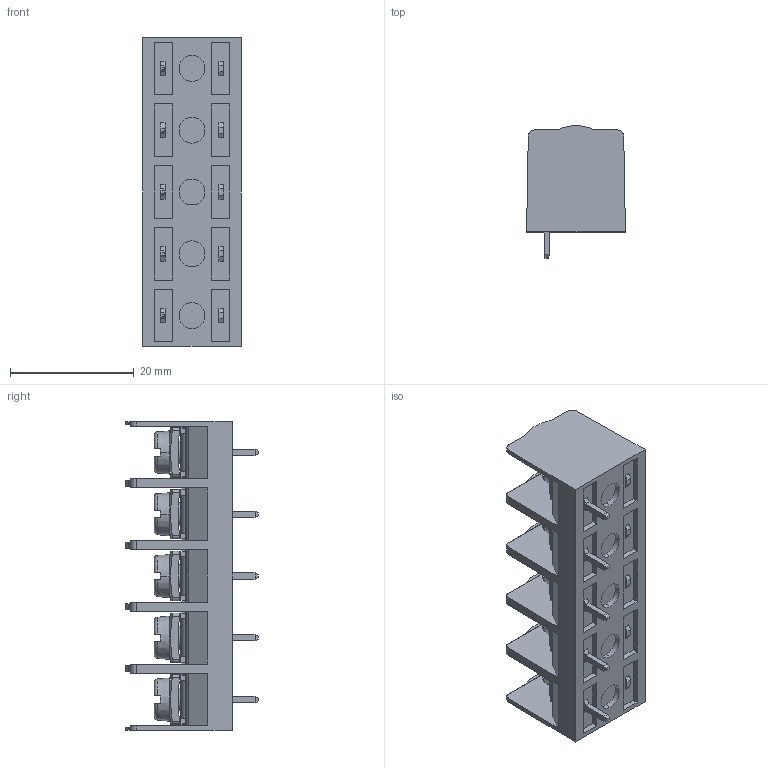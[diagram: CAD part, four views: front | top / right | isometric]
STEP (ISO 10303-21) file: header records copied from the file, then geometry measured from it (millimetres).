
FILE_DESCRIPTION (( 'STEP AP203' ), '1' );
FILE_NAME ('983-S-05.STEP', '2019-01-18T00:50:51', ( '' ), ( '' ), 'SwSTEP 2.0', 'SolidWorks 2016', '' );
FILE_SCHEMA (( 'CONFIG_CONTROL_DESIGN' ));
Length unit declared in the file: millimetre
Products named in the file (1): 983-S-05
Bounding box: 16 x 21.4 x 50 mm (x, y, z)
Volume: 7552 mm3; surface area: 6203.2 mm2
Topology: 1 solids, 1 shells, 569 faces, 1517 edges, 1004 vertices
Faces by surface type: plane 396, cylinder 103, bspline 55, cone 15
Entity records: 19799 total; most frequent: CARTESIAN_POINT 6067, ORIENTED_EDGE 3034, DIRECTION 2532, EDGE_CURVE 1517, LINE 1048, VECTOR 1048, VERTEX_POINT 1004, AXIS2_PLACEMENT_3D 742
